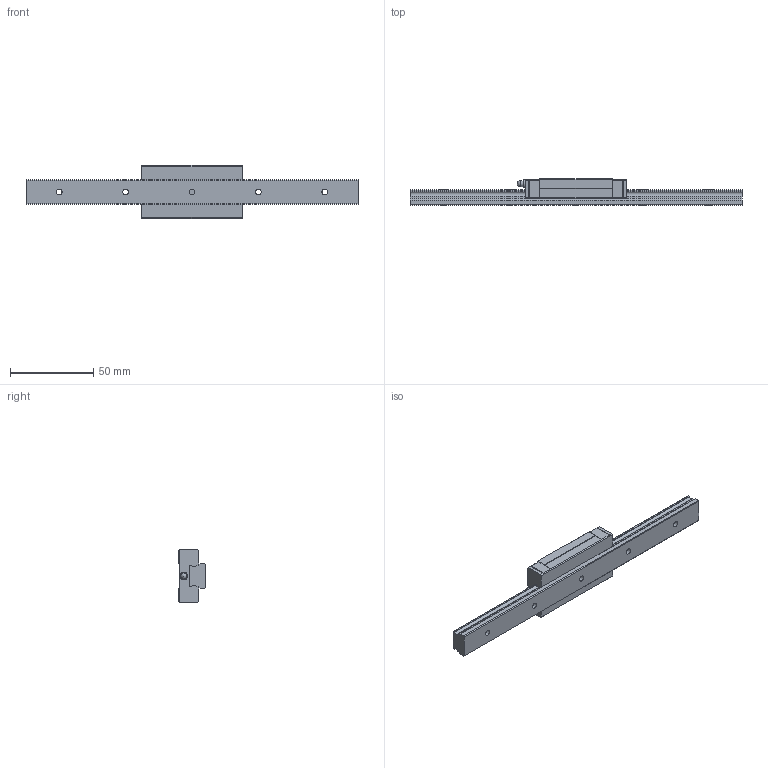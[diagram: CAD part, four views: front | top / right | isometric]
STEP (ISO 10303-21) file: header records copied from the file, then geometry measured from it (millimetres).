
FILE_DESCRIPTION(/* description */ ('STEP AP203'),/* implementation_level */ '2;1');
FILE_NAME(/* name */ 'RSX15NMUU-200LM_G20_0_PB107_69-65_0_0_0_1',/* time_stamp */ '2024-05-21T10:25:54+02:00',/* author */ ('License CC BY-ND 4.0'),/* organization */ ('CADENAS'),/* preprocessor_version */ 'ST-DEVELOPER v19.3',/* originating_system */ 'PARTsolutions',/* authorisation */ ' ');
FILE_SCHEMA (('CONFIG_CONTROL_DESIGN'));
Length unit declared in the file: millimetre
Products named in the file (4): RSX15NMUU-200LM_G20_0_PB107_69-65_0_0_0_1; RSX15M20020 Track; RSX15NMUUPB1071 Slider; RSX PB107 grease nipple
Assembly tree (3 placements, depth 2):
  RSX15NMUU-200LM_G20_0_PB107_69-65_0_0_0_1
    RSX15M20020 Track
    RSX15NMUUPB1071 Slider
    RSX PB107 grease nipple
Bounding box: 200 x 16 x 32 mm (x, y, z)
Volume: 42421.2 mm3; surface area: 17420 mm2
Topology: 3 solids, 3 shells, 142 faces, 376 edges, 248 vertices
Faces by surface type: plane 96, cylinder 37, cone 8, sphere 1
Full cylindrical faces by diameter (mm): 2.459 x4, 3 x3, 3.5 x6, 4.5 x1, 6 x5
Entity records: 4281 total; most frequent: CARTESIAN_POINT 726, DIRECTION 708, ORIENTED_EDGE 676, EDGE_CURVE 338, LINE 260, VECTOR 260, VERTEX_POINT 242, AXIS2_PLACEMENT_3D 224
